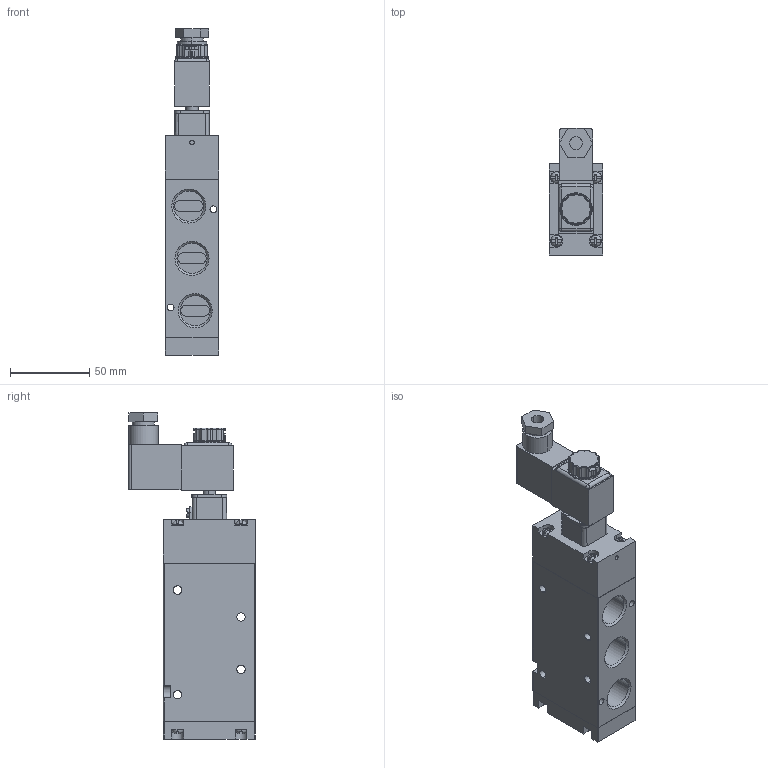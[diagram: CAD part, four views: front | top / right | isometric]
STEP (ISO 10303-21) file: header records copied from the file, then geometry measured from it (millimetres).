
FILE_DESCRIPTION (( 'STEP AP214' ), '1' );
FILE_NAME ('Janatics-Default.STEP', '2022-06-01T11:23:16', ( '' ), ( '' ), 'SwSTEP 2.0', 'SolidWorks 2021', '' );
FILE_SCHEMA (( 'AUTOMOTIVE_DESIGN' ));
Length unit declared in the file: millimetre
Products named in the file (18): End Cover Assyembly 1; Combination head screw_827509; 414035-Housing_414025; 880017 C - Connector screw; Combination head screw_827531; DS234SR60-Core tube; 723005- Housing; 880017 C - Connector; 534002-End Cover; 073000-Core Tube Retainer; 880047 D - Coil assembly 24V DC; Coil Assembly; 414337-End cover; End Cover Assembly 2; 713008 A - Nut - M8X0.75; 827701 B - Slotted counter sunk head screw - M3X0.5 X 20; Janatics-Default; 723006- Manual Adjuster_trial
Assembly tree (24 placements, depth 3):
  Janatics-Default
    414035-Housing_414025
    End Cover Assyembly 1
      414337-End cover
      Combination head screw_827531  x4
      723005- Housing
      073000-Core Tube Retainer
      DS234SR60-Core tube
      827701 B - Slotted counter sunk head screw - M3X0.5 X 20  x2
      723006- Manual Adjuster_trial
    End Cover Assembly 2
      534002-End Cover
      Combination head screw_827509  x4
    Coil Assembly
      880047 D - Coil assembly 24V DC
      880017 C - Connector
      880017 C - Connector screw
      713008 A - Nut - M8X0.75
Bounding box: 34 x 79.85 x 205.75 mm (x, y, z)
Volume: 289168.2 mm3; surface area: 74470.9 mm2
Topology: 21 solids, 21 shells, 843 faces, 2101 edges, 1317 vertices
Faces by surface type: plane 356, cylinder 284, torus 82, cone 61, bspline 60
Entity records: 23078 total; most frequent: CARTESIAN_POINT 5257, DIRECTION 3557, ORIENTED_EDGE 3390, EDGE_CURVE 1695, AXIS2_PLACEMENT_3D 1390, VERTEX_POINT 1068, EDGE_LOOP 789, LINE 777
